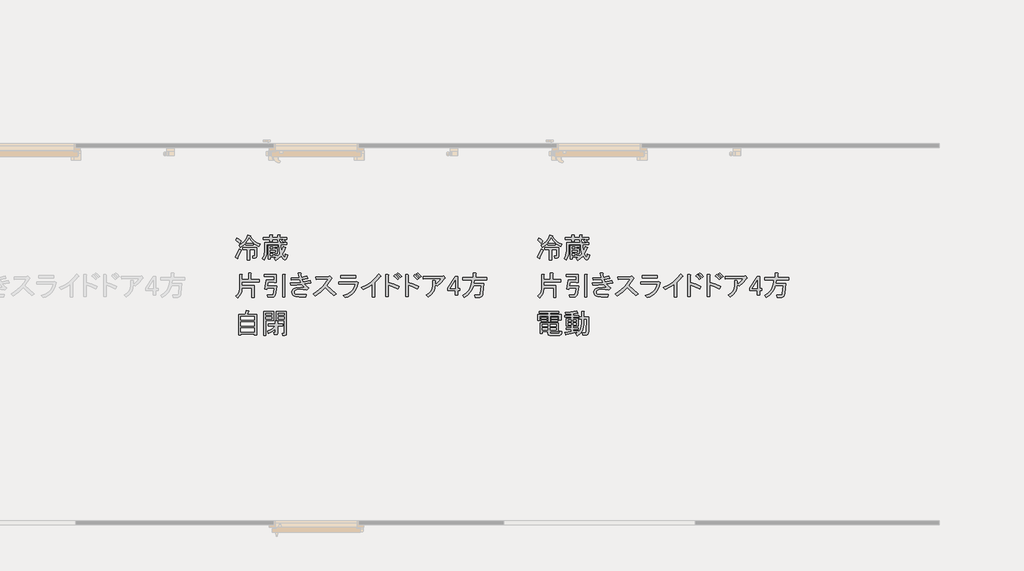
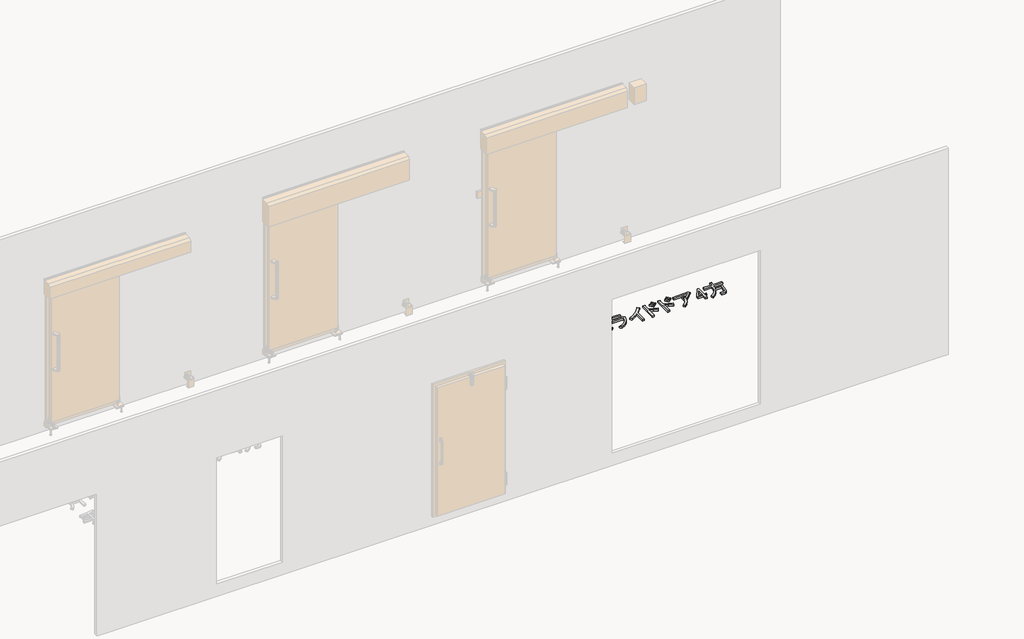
# One storey, part 82 of 117: 2 proxies.
"""IFC4 building model written with IfcOpenShell, lengths in millimetres."""

from ifc_helpers import new_model, si_unit, frame, origin, place, context, project, spatial, polyline, outline, extrude, element, save

model = new_model("IFC4")

# Units and contexts
model_context = context("Model", 3, world=origin())
ifc_project = project(units=[si_unit("LENGTHUNIT", "METRE", prefix="MILLI")], contexts=[model_context])

# Site, building, storey
site = spatial("IfcSite", under=ifc_project)
building = spatial("IfcBuilding", under=site)
storey = spatial("IfcBuildingStorey", under=building, Name="レベル 1", Elevation=500.0)

# Proxies
placement = place(None, origin())
element("IfcBuildingElementProxy", 1, Name="200㎜\u3000MS Pゴシック", ObjectType="200㎜\u3000MS Pゴシック", at=placement, inside=storey, context=model_context, shape_type="SweptSolid", body=[
    extrude(outline(polyline([(-8916.3970532, 22948.5050774), (-8882.7035553, 22967.9021871), (-8856.3378543, 22991.6097656), (-8837.2999504, 23019.6278129), (-8825.5898434, 23051.9563291), (-8794.5544679, 23043.9101206), (-8793.117645, 23040.174381), (-8798.002843, 23038.1628289), (-8779.1804624, 23010.6476696), (-8756.0476131, 22987.874026), (-8728.6042949, 22969.8418981), (-8696.850508, 22956.5512859), (-8708.3450915, 22932.4126605), (-8737.3689149, 22945.9187961), (-8766.9674674, 22965.7469527), (-8766.9674674, 22946.2061607), (-8849.7284688, 22946.2061607), (-8849.7284688, 22964.5974943), (-8874.1544588, 22942.7577856), (-8903.7530113, 22923.2169937), (-8916.3970532, 22948.5050774)]), holes=[polyline([(-8769.2663841, 22968.0458694), (-8795.4165617, 22995.3455052), (-8811.7963432, 23022.0704119), (-8825.5898434, 22993.0465885), (-8846.2800937, 22968.0458694), (-8769.2663841, 22968.0458694)])]), frame((0.0, 0.0, 500.0), z_axis=(0.0, 0.0, 1.0), x_axis=(1.0, 0.0, 0.0)), (0.0, 0.0, 1.0), 25.0),
    extrude(outline(polyline([(-8958.9270122, 22822.0646587), (-8935.9378452, 22861.7209718), (-8917.5465116, 22904.82566), (-8896.8562612, 22892.1816181), (-8914.3855011, 22848.2148362), (-8932.4894701, 22812.8689919), (-8933.0641993, 22806.5469709), (-8937.0873035, 22805.9722417), (-8958.9270122, 22822.0646587)])), frame((0.0, 0.0, 500.0), z_axis=(0.0, 0.0, 1.0), x_axis=(1.0, 0.0, 0.0)), (0.0, 0.0, 1.0), 25.0),
    extrude(outline(polyline([(-8879.6143859, 22897.9289099), (-8879.6143859, 22919.7686186), (-8730.1848002, 22919.7686186), (-8730.1848002, 22825.5130337), (-8734.2079044, 22814.3058148), (-8746.2772171, 22810.5700752), (-8771.5653009, 22810.5700752), (-8776.1631343, 22832.4097838), (-8757.7718006, 22832.4097838), (-8754.3234256, 22833.5592422), (-8753.1739672, 22837.0076172), (-8753.1739672, 22897.9289099), (-8807.1985098, 22897.9289099), (-8807.1985098, 22786.4314498), (-8830.1876768, 22786.4314498), (-8830.1876768, 22897.9289099), (-8879.6143859, 22897.9289099)])), frame((0.0, 0.0, 500.0), z_axis=(0.0, 0.0, 1.0), x_axis=(1.0, 0.0, 0.0)), (0.0, 0.0, 1.0), 25.0),
    extrude(outline(polyline([(-8941.685137, 23022.0704119), (-8920.9948866, 23009.1390055), (-8898.0057196, 22988.7361197), (-8914.0981365, 22965.7469527), (-8955.4786372, 23000.2307032), (-8941.685137, 23022.0704119)])), frame((0.0, 0.0, 500.0), z_axis=(0.0, 0.0, 1.0), x_axis=(1.0, 0.0, 0.0)), (0.0, 0.0, 1.0), 25.0),
    extrude(outline(polyline([(-8511.7877133, 22826.6624921), (-8485.3501712, 22853.1000342), (-8495.4079318, 22900.8025558), (-8500.2931298, 22954.2523692), (-8625.5840901, 22954.2523692), (-8625.5840901, 22879.5375763), (-8627.1645954, 22853.5310811), (-8631.9061111, 22829.536138), (-8639.8086373, 22807.552747), (-8650.8721739, 22787.5809081), (-8671.5624242, 22803.673325), (-8661.5046636, 22821.9209764), (-8654.3205489, 22842.1801798), (-8648.5732572, 22888.7332431), (-8648.5732572, 22976.0920778), (-8501.4425881, 22976.0920778), (-8501.4425881, 22987.5866614), (-8508.3393382, 22987.5866614), (-8508.3393382, 23005.977995), (-8568.1111725, 23005.977995), (-8568.1111725, 22984.1382863), (-8591.1003396, 22984.1382863), (-8591.1003396, 23005.977995), (-8660.0678407, 23005.977995), (-8660.0678407, 23027.8177037), (-8591.1003396, 23027.8177037), (-8591.1003396, 23053.1057874), (-8569.2606309, 23053.1057874), (-8564.3754329, 23050.8068707), (-8568.1111725, 23046.2090373), (-8568.1111725, 23027.8177037), (-8508.3393382, 23027.8177037), (-8508.3393382, 23053.1057874), (-8486.4996295, 23053.1057874), (-8481.6144316, 23050.8068707), (-8485.3501712, 23046.2090373), (-8485.3501712, 23027.8177037), (-8415.2332117, 23027.8177037), (-8415.2332117, 23005.977995), (-8452.015879, 23005.977995), (-8429.0267119, 22989.8855781), (-8442.8202122, 22976.0920778), (-8414.0837534, 22976.0920778), (-8414.0837534, 22954.2523692), (-8478.4534211, 22954.2523692), (-8469.2577543, 22877.2386596), (-8449.7169623, 22932.4126605), (-8426.7277952, 22922.0675353), (-8423.2794202, 22918.3317957), (-8429.0267119, 22916.3202435), (-8442.245483, 22882.4112222), (-8458.9126291, 22849.6516591), (-8446.8433164, 22828.099315), (-8435.9234621, 22820.9152003), (-8431.9003578, 22824.3635754), (-8429.0267119, 22834.7087005), (-8426.7277952, 22849.6516591), (-8404.8880866, 22841.6054507), (-8408.3364616, 22824.3635754), (-8417.819493, 22798.5007625), (-8424.5007197, 22792.0350592), (-8432.475087, 22789.8798248), (-8442.3891653, 22792.394265), (-8452.5906082, 22799.9375854), (-8473.8555877, 22830.1108671), (-8503.4541402, 22802.5238667), (-8530.1790469, 22784.1325331), (-8546.2714639, 22804.8227834), (-8523.2822968, 22818.6162836), (-8589.9508812, 22818.6162836), (-8589.9508812, 22801.3744083), (-8609.4916732, 22801.3744083), (-8609.4916732, 22942.7577856), (-8510.6382549, 22942.7577856), (-8510.6382549, 22924.366452), (-8543.9725471, 22924.366452), (-8543.9725471, 22908.2740351), (-8515.2360883, 22908.2740351), (-8515.2360883, 22855.3989509), (-8543.9725471, 22855.3989509), (-8543.9725471, 22837.0076172), (-8511.7877133, 22837.0076172), (-8511.7877133, 22826.6624921)]), holes=[polyline([(-8480.7523378, 22988.7361197), (-8475.8671398, 22986.1498384), (-8479.6028794, 22982.988828), (-8479.6028794, 22976.0920778), (-8446.2685872, 22976.0920778), (-8469.2577543, 22993.3339531), (-8456.6137124, 23005.977995), (-8485.3501712, 23005.977995), (-8485.3501712, 22988.7361197), (-8480.7523378, 22988.7361197)]), polyline([(-8589.9508812, 22908.2740351), (-8563.5133391, 22908.2740351), (-8563.5133391, 22924.366452), (-8589.9508812, 22924.366452), (-8589.9508812, 22908.2740351)]), polyline([(-8589.9508812, 22873.7902845), (-8534.7768803, 22873.7902845), (-8534.7768803, 22889.8827014), (-8589.9508812, 22889.8827014), (-8589.9508812, 22873.7902845)]), polyline([(-8589.9508812, 22837.0076172), (-8563.5133391, 22837.0076172), (-8563.5133391, 22855.3989509), (-8589.9508812, 22855.3989509), (-8589.9508812, 22837.0076172)])]), frame((0.0, 0.0, 500.0), z_axis=(0.0, 0.0, 1.0), x_axis=(1.0, 0.0, 0.0)), (0.0, 0.0, 1.0), 25.0),
    extrude(outline(polyline([(-8891.1089695, 22637.0133705), (-8885.0743131, 22633.5649954), (-8889.9595111, 22627.8177037), (-8889.9595111, 22579.5404529), (-8818.6930933, 22579.5404529), (-8818.6930933, 22648.507954), (-8793.4050095, 22648.507954), (-8787.3703532, 22645.059579), (-8792.2555512, 22639.3122872), (-8792.2555512, 22579.5404529), (-8707.1956331, 22579.5404529), (-8707.1956331, 22554.2523692), (-8889.9595111, 22554.2523692), (-8889.9595111, 22517.4697019), (-8760.0707173, 22517.4697019), (-8760.0707173, 22388.7303665), (-8786.5082594, 22388.7303665), (-8786.5082594, 22492.1816181), (-8889.9595111, 22492.1816181), (-8889.9595111, 22480.6870346), (-8892.6894747, 22453.7466045), (-8900.8793655, 22429.2487734), (-8914.5291834, 22407.1935412), (-8933.6389285, 22387.5809081), (-8952.0302621, 22405.9722417), (-8934.9320691, 22421.5617706), (-8922.7190741, 22439.5938985), (-8915.3912772, 22460.0686254), (-8912.9486782, 22482.9859513), (-8912.9486782, 22637.0133705), (-8891.1089695, 22637.0133705)])), frame((0.0, 0.0, 500.0), z_axis=(0.0, 0.0, 1.0), x_axis=(1.0, 0.0, 0.0)), (0.0, 0.0, 1.0), 25.0),
    extrude(outline(polyline([(-8519.8339218, 22511.7224101), (-8529.0295886, 22441.8928152), (-8535.3516095, 22419.2628539), (-8542.8230888, 22404.8227834), (-8553.4555786, 22397.0639395), (-8569.2606309, 22394.4776582), (-8615.238965, 22394.4776582), (-8618.68734, 22416.3173669), (-8576.157381, 22416.3173669), (-8565.5248912, 22418.328919), (-8558.9155057, 22424.3635754), (-8550.8692973, 22448.2148362), (-8545.1220055, 22489.8827014), (-8622.1357151, 22489.8827014), (-8624.4346318, 22478.3881179), (-8648.5732572, 22481.836493), (-8632.4808403, 22574.9426195), (-8546.2714639, 22574.9426195), (-8546.2714639, 22611.7252868), (-8652.0216322, 22611.7252868), (-8652.0216322, 22633.5649954), (-8523.2822968, 22633.5649954), (-8523.2822968, 22547.355619), (-8546.2714639, 22547.355619), (-8546.2714639, 22553.1029108), (-8610.6411316, 22553.1029108), (-8617.5378817, 22511.7224101), (-8519.8339218, 22511.7224101)])), frame((0.0, 0.0, 500.0), z_axis=(0.0, 0.0, 1.0), x_axis=(1.0, 0.0, 0.0)), (0.0, 0.0, 1.0), 25.0),
    extrude(outline(polyline([(-8433.6245454, 22396.7765749), (-8456.6137124, 22396.7765749), (-8456.6137124, 22637.0133705), (-8434.7740037, 22637.0133705), (-8429.8888057, 22634.7144538), (-8433.6245454, 22630.1166204), (-8433.6245454, 22396.7765749)])), frame((0.0, 0.0, 500.0), z_axis=(0.0, 0.0, 1.0), x_axis=(1.0, 0.0, 0.0)), (0.0, 0.0, 1.0), 25.0),
    extrude(outline(polyline([(-8253.1595841, 22582.988828), (-8239.3660839, 22554.2523692), (-8166.9502077, 22570.3447861), (-8156.6050825, 22546.2061607), (-8226.722042, 22533.5621188), (-8206.8938854, 22511.147681), (-8181.8931663, 22489.8827014), (-8201.4339582, 22470.3419095), (-8238.5039901, 22477.2386596), (-8266.9530843, 22479.5375763), (-8304.8852099, 22476.0892012), (-8317.8166164, 22471.7787324), (-8326.7249186, 22465.7440761), (-8332.759575, 22457.410503), (-8334.7711271, 22448.5022008), (-8333.0469395, 22438.1570756), (-8327.874377, 22430.1108671), (-8310.3451371, 22423.214117), (-8276.1487511, 22420.9152003), (-8206.0317916, 22420.9152003), (-8210.6296251, 22395.6271166), (-8280.7465845, 22395.6271166), (-8319.8281685, 22400.22495), (-8334.1963979, 22405.9722417), (-8345.1162522, 22414.0184502), (-8355.4613774, 22429.8235025), (-8358.9097525, 22449.6516591), (-8355.748742, 22465.7440761), (-8346.2657106, 22479.5375763), (-8333.9090333, 22488.0866728), (-8316.3797934, 22494.1931703), (-8265.803626, 22499.0783683), (-8224.4231253, 22495.6299932), (-8253.1595841, 22528.9642854), (-8309.7704079, 22523.7917228), (-8371.5537943, 22522.0675353), (-8375.0021694, 22546.2061607), (-8318.103981, 22546.7808899), (-8264.6541676, 22550.8039941), (-8277.2982095, 22579.5404529), (-8365.8065026, 22576.0920778), (-8368.1054193, 22599.0812449), (-8283.0455012, 22601.3801616), (-8292.2411681, 22648.507954), (-8266.9530843, 22648.507954), (-8260.918428, 22645.059579), (-8265.803626, 22639.3122872), (-8260.0563342, 22604.8285366), (-8199.1350415, 22616.3231202), (-8191.0888331, 22593.3339531), (-8253.1595841, 22582.988828)])), frame((0.0, 0.0, 500.0), z_axis=(0.0, 0.0, 1.0), x_axis=(1.0, 0.0, 0.0)), (0.0, 0.0, 1.0), 25.0),
    extrude(outline(polyline([(-7988.7381848, 22517.4697019), (-7939.5988402, 22476.6639304), (-7891.0342249, 22430.1108671), (-7914.0233919, 22410.5700752), (-7961.4385489, 22457.1231384), (-8007.1295184, 22495.6299932), (-8055.1194046, 22449.9390237), (-8109.4313117, 22409.4206168), (-8131.2710204, 22428.9614088), (-8075.8096549, 22468.6177219), (-8031.2681438, 22508.2740351), (-7997.646487, 22547.9303482), (-7974.9446846, 22587.5866614), (-8100.2356449, 22579.5404529), (-8103.68402, 22607.1274534), (-7970.3468511, 22612.8747451), (-7956.5533509, 22616.3231202), (-7938.1620173, 22597.9317865), (-7935.2883714, 22591.322401), (-7942.7598507, 22587.5866614), (-7988.7381848, 22517.4697019)])), frame((0.0, 0.0, 500.0), z_axis=(0.0, 0.0, 1.0), x_axis=(1.0, 0.0, 0.0)), (0.0, 0.0, 1.0), 25.0),
    extrude(outline(polyline([(-7814.7101903, 22411.7195335), (-7765.0679577, 22430.039026), (-7744.8267145, 22442.1622195), (-7727.6387201, 22456.2610446), (-7713.5039744, 22472.3355013), (-7702.4224775, 22490.3855895), (-7694.3942293, 22510.4113092), (-7689.4192299, 22532.4126605), (-7864.1368994, 22532.4126605), (-7864.1368994, 22557.7007442), (-7688.2697716, 22557.7007442), (-7677.9246464, 22561.1491193), (-7657.234396, 22548.5050774), (-7654.3607502, 22543.0451502), (-7659.5333128, 22538.1599522), (-7665.6577705, 22510.6807135), (-7674.8354771, 22485.7159149), (-7687.0664323, 22463.2655565), (-7702.3506364, 22443.3296382), (-7720.6880891, 22425.90816), (-7742.0787907, 22411.001122), (-7766.5227409, 22398.6085242), (-7794.0199399, 22388.7303665), (-7814.7101903, 22411.7195335)])), frame((0.0, 0.0, 500.0), z_axis=(0.0, 0.0, 1.0), x_axis=(1.0, 0.0, 0.0)), (0.0, 0.0, 1.0), 25.0),
    extrude(outline(polyline([(-7684.8213965, 22597.9317865), (-7843.4466491, 22597.9317865), (-7843.4466491, 22623.2198703), (-7684.8213965, 22623.2198703), (-7684.8213965, 22597.9317865)])), frame((0.0, 0.0, 500.0), z_axis=(0.0, 0.0, 1.0), x_axis=(1.0, 0.0, 0.0)), (0.0, 0.0, 1.0), 25.0),
    extrude(outline(polyline([(-7622.3368405, 22496.7794516), (-7565.6541755, 22524.6538166), (-7516.2993075, 22557.7007442), (-7474.2722365, 22595.9202344), (-7439.5729625, 22639.3122872), (-7417.7332538, 22620.9209536), (-7415.1469725, 22614.8862972), (-7425.7794623, 22610.5758284), (-7450.7801814, 22581.552005), (-7482.1029215, 22551.9534525), (-7482.1029215, 22395.6271166), (-7508.5404636, 22395.6271166), (-7508.5404636, 22530.1137438), (-7552.219881, 22500.5151912), (-7602.7960485, 22473.7902845), (-7622.3368405, 22496.7794516)])), frame((0.0, 0.0, 500.0), z_axis=(0.0, 0.0, 1.0), x_axis=(1.0, 0.0, 0.0)), (0.0, 0.0, 1.0), 25.0),
    extrude(outline(polyline([(-7239.6591659, 22581.8393696), (-7259.1999579, 22603.6790783), (-7278.7407499, 22620.9209536), (-7263.7977913, 22632.4155371), (-7244.2569993, 22615.1736618), (-7224.7162073, 22593.3339531), (-7239.6591659, 22581.8393696)])), frame((0.0, 0.0, 500.0), z_axis=(0.0, 0.0, 1.0), x_axis=(1.0, 0.0, 0.0)), (0.0, 0.0, 1.0), 25.0),
    extrude(outline(polyline([(-7212.0721655, 22603.6790783), (-7229.0266762, 22622.9325057), (-7250.0042911, 22641.6112039), (-7235.0613325, 22653.1057874), (-7215.8079051, 22636.7260059), (-7197.1292069, 22615.1736618), (-7212.0721655, 22603.6790783)])), frame((0.0, 0.0, 500.0), z_axis=(0.0, 0.0, 1.0), x_axis=(1.0, 0.0, 0.0)), (0.0, 0.0, 1.0), 25.0),
    extrude(outline(polyline([(-7237.3602492, 22480.6870346), (-7292.8216147, 22506.5498475), (-7337.3631258, 22522.0675353), (-7337.3631258, 22402.5238667), (-7363.8006679, 22402.5238667), (-7363.8006679, 22632.4155371), (-7340.8115009, 22632.4155371), (-7333.052657, 22629.5418912), (-7337.3631258, 22623.2198703), (-7337.3631258, 22550.8039941), (-7280.752302, 22531.8379313), (-7223.566749, 22507.1245767), (-7237.3602492, 22480.6870346)])), frame((0.0, 0.0, 500.0), z_axis=(0.0, 0.0, 1.0), x_axis=(1.0, 0.0, 0.0)), (0.0, 0.0, 1.0), 25.0),
    extrude(outline(polyline([(-7028.4346991, 22480.6870346), (-7083.8960646, 22506.5498475), (-7128.4375758, 22522.0675353), (-7128.4375758, 22402.5238667), (-7154.8751179, 22402.5238667), (-7154.8751179, 22632.4155371), (-7131.8859508, 22632.4155371), (-7124.127107, 22629.5418912), (-7128.4375758, 22623.2198703), (-7128.4375758, 22550.8039941), (-7071.8267519, 22531.8379313), (-7014.6411989, 22507.1245767), (-7028.4346991, 22480.6870346)])), frame((0.0, 0.0, 500.0), z_axis=(0.0, 0.0, 1.0), x_axis=(1.0, 0.0, 0.0)), (0.0, 0.0, 1.0), 25.0),
    extrude(outline(polyline([(-7030.7336159, 22581.8393696), (-7050.2744078, 22603.6790783), (-7069.8151998, 22620.9209536), (-7054.8722412, 22632.4155371), (-7035.3314493, 22615.1736618), (-7015.7906573, 22593.3339531), (-7030.7336159, 22581.8393696)])), frame((0.0, 0.0, 500.0), z_axis=(0.0, 0.0, 1.0), x_axis=(1.0, 0.0, 0.0)), (0.0, 0.0, 1.0), 25.0),
    extrude(outline(polyline([(-7003.1466154, 22603.6790783), (-7020.1011261, 22622.9325057), (-7041.078741, 22641.6112039), (-7026.1357824, 22653.1057874), (-7006.882355, 22636.7260059), (-6988.2036568, 22615.1736618), (-7003.1466154, 22603.6790783)])), frame((0.0, 0.0, 500.0), z_axis=(0.0, 0.0, 1.0), x_axis=(1.0, 0.0, 0.0)), (0.0, 0.0, 1.0), 25.0),
    extrude(outline(polyline([(-6840.1993994, 22530.1137438), (-6844.0069802, 22488.8769254), (-6857.7286393, 22452.525305), (-6881.3643766, 22421.0588826), (-6914.9141923, 22394.4776582), (-6934.4549843, 22416.3173669), (-6904.7845906, 22436.5765704), (-6883.5914522, 22460.5715135), (-6870.8755692, 22488.3021962), (-6866.6369415, 22519.7686186), (-6866.6369415, 22569.1953277), (-6842.4983161, 22569.1953277), (-6836.7510244, 22566.6090464), (-6840.1993994, 22561.1491193), (-6840.1993994, 22531.2632021), (-6803.7040967, 22562.011213), (-6776.9791901, 22592.1844948), (-6964.3409014, 22585.2877447), (-6966.6398181, 22611.7252868), (-6757.4383981, 22617.4725785), (-6749.3921896, 22619.7714952), (-6732.1503143, 22599.0812449), (-6731.8629497, 22595.9202344), (-6737.8976061, 22595.6328698), (-6775.8297317, 22552.240817), (-6820.6586074, 22511.7224101), (-6840.1993994, 22530.1137438)])), frame((0.0, 0.0, 500.0), z_axis=(0.0, 0.0, 1.0), x_axis=(1.0, 0.0, 0.0)), (0.0, 0.0, 1.0), 25.0),
    extrude(outline(polyline([(-6628.2392793, 22615.1736618), (-6601.8017372, 22615.1736618), (-6601.8017372, 22488.7332431), (-6577.6631118, 22488.7332431), (-6577.6631118, 22466.8935344), (-6601.8017372, 22466.8935344), (-6601.8017372, 22416.3173669), (-6628.2392793, 22416.3173669), (-6628.2392793, 22466.8935344), (-6705.2529889, 22466.8935344), (-6705.2529889, 22489.8827014), (-6628.2392793, 22615.1736618)]), holes=[polyline([(-6628.2392793, 22572.6437028), (-6679.9649051, 22488.7332431), (-6628.2392793, 22488.7332431), (-6628.2392793, 22572.6437028)])]), frame((0.0, 0.0, 500.0), z_axis=(0.0, 0.0, 1.0), x_axis=(1.0, 0.0, 0.0)), (0.0, 0.0, 1.0), 25.0),
    extrude(outline(polyline([(-6430.5324427, 22538.1599522), (-6323.632816, 22538.1599522), (-6335.1273995, 22434.7087005), (-6338.9349803, 22416.6047315), (-6345.7598893, 22403.673325), (-6355.6021264, 22395.9144812), (-6368.4616917, 22393.3281999), (-6414.4400258, 22393.3281999), (-6420.1873176, 22418.6162836), (-6370.7606084, 22418.6162836), (-6364.1512229, 22422.9267524), (-6360.4154833, 22435.8581589), (-6351.2198165, 22516.3202435), (-6433.9808178, 22516.3202435), (-6445.7627659, 22480.8307169), (-6466.1656517, 22447.9274716), (-6495.1894751, 22417.6105076), (-6532.8342361, 22389.8798248), (-6548.926653, 22414.0184502), (-6509.342181, 22440.2404689), (-6480.2465165, 22472.9281908), (-6461.6396594, 22512.0816159), (-6453.5216098, 22557.7007442), (-6452.3721514, 22578.3909946), (-6548.926653, 22578.3909946), (-6548.926653, 22603.6790783), (-6436.2797345, 22603.6790783), (-6436.2797345, 22649.6574124), (-6410.9916508, 22649.6574124), (-6404.9569944, 22646.2090373), (-6409.8421924, 22640.4617456), (-6409.8421924, 22603.6790783), (-6293.7468989, 22603.6790783), (-6293.7468989, 22578.3909946), (-6425.9346093, 22578.3909946), (-6430.5324427, 22538.1599522)])), frame((0.0, 0.0, 500.0), z_axis=(0.0, 0.0, 1.0), x_axis=(1.0, 0.0, 0.0)), (0.0, 0.0, 1.0), 25.0),
    extrude(outline(polyline([(-8853.1768438, 22211.7252868), (-8842.8317187, 22251.9563291), (-8815.2447182, 22246.2090373), (-8813.8078953, 22242.4732977), (-8818.6930933, 22240.4617456), (-8831.3371352, 22211.7252868), (-8733.6331752, 22211.7252868), (-8733.6331752, 21994.4776582), (-8756.6223423, 21994.4776582), (-8756.6223423, 22004.8227834), (-8901.4540946, 22004.8227834), (-8901.4540946, 21991.0292832), (-8924.4432617, 21991.0292832), (-8924.4432617, 22211.7252868), (-8853.1768438, 22211.7252868)]), holes=[polyline([(-8756.6223423, 22151.9534525), (-8756.6223423, 22189.8855781), (-8901.4540946, 22189.8855781), (-8901.4540946, 22151.9534525), (-8756.6223423, 22151.9534525)]), polyline([(-8756.6223423, 22130.1137438), (-8901.4540946, 22130.1137438), (-8901.4540946, 22091.0321598), (-8756.6223423, 22091.0321598), (-8756.6223423, 22130.1137438)]), polyline([(-8756.6223423, 22026.6624921), (-8756.6223423, 22069.1924511), (-8901.4540946, 22069.1924511), (-8901.4540946, 22026.6624921), (-8756.6223423, 22026.6624921)])]), frame((0.0, 0.0, 500.0), z_axis=(0.0, 0.0, 1.0), x_axis=(1.0, 0.0, 0.0)), (0.0, 0.0, 1.0), 25.0),
    extrude(outline(polyline([(-8524.4317552, 22241.6112039), (-8416.3826701, 22241.6112039), (-8416.3826701, 22005.9722417), (-8420.9805035, 21992.1787415), (-8434.7740037, 21987.5809081), (-8457.7631707, 21987.5809081), (-8462.3610042, 22009.4206168), (-8442.8202122, 22009.4206168), (-8439.3718371, 22012.8689919), (-8439.3718371, 22147.355619), (-8481.9017961, 22147.355619), (-8524.4317552, 22147.355619), (-8524.4317552, 22241.6112039)]), holes=[polyline([(-8501.4425881, 22223.2198703), (-8501.4425881, 22203.6790783), (-8439.3718371, 22203.6790783), (-8439.3718371, 22223.2198703), (-8501.4425881, 22223.2198703)]), polyline([(-8501.4425881, 22185.2877447), (-8501.4425881, 22165.7469527), (-8439.3718371, 22165.7469527), (-8439.3718371, 22185.2877447), (-8501.4425881, 22185.2877447)])]), frame((0.0, 0.0, 500.0), z_axis=(0.0, 0.0, 1.0), x_axis=(1.0, 0.0, 0.0)), (0.0, 0.0, 1.0), 25.0),
    extrude(outline(polyline([(-8656.6194656, 21987.5809081), (-8656.6194656, 22241.6112039), (-8548.5703806, 22241.6112039), (-8548.5703806, 22147.355619), (-8633.6302986, 22147.355619), (-8633.6302986, 21987.5809081), (-8656.6194656, 21987.5809081)]), holes=[polyline([(-8633.6302986, 22185.2877447), (-8633.6302986, 22165.7469527), (-8571.5595476, 22165.7469527), (-8571.5595476, 22185.2877447), (-8633.6302986, 22185.2877447)]), polyline([(-8633.6302986, 22223.2198703), (-8633.6302986, 22203.6790783), (-8571.5595476, 22203.6790783), (-8571.5595476, 22223.2198703), (-8633.6302986, 22223.2198703)])]), frame((0.0, 0.0, 500.0), z_axis=(0.0, 0.0, 1.0), x_axis=(1.0, 0.0, 0.0)), (0.0, 0.0, 1.0), 25.0),
    extrude(outline(polyline([(-8533.627422, 22089.8827014), (-8609.4916732, 22089.8827014), (-8609.4916732, 22111.7224101), (-8533.627422, 22111.7224101), (-8533.627422, 22141.6083273), (-8511.7877133, 22141.6083273), (-8506.9025153, 22139.3094106), (-8510.6382549, 22134.7115772), (-8510.6382549, 22111.7224101), (-8456.6137124, 22111.7224101), (-8456.6137124, 22089.8827014), (-8510.6382549, 22089.8827014), (-8510.6382549, 22015.1679086), (-8515.2360883, 22001.3744083), (-8529.0295886, 21996.7765749), (-8547.4209222, 21996.7765749), (-8553.168214, 22018.6162836), (-8537.075797, 22018.6162836), (-8533.627422, 22022.0646587), (-8533.627422, 22056.5484092), (-8564.9501621, 22032.1224193), (-8608.3422149, 22011.7195335), (-8616.3884233, 22034.7087005), (-8568.1111725, 22057.410503), (-8549.1451097, 22071.1321621), (-8533.627422, 22086.4343264), (-8533.627422, 22089.8827014)])), frame((0.0, 0.0, 500.0), z_axis=(0.0, 0.0, 1.0), x_axis=(1.0, 0.0, 0.0)), (0.0, 0.0, 1.0), 25.0),
])
element("IfcBuildingElementProxy", 2, Name="200㎜\u3000MS Pゴシック", ObjectType="200㎜\u3000MS Pゴシック", at=placement, inside=storey, context=model_context, shape_type="SweptSolid", body=[
    extrude(outline(polyline([(-5716.3970532, 22948.5050774), (-5682.7035553, 22967.9021871), (-5656.3378543, 22991.6097656), (-5637.2999504, 23019.6278129), (-5625.5898434, 23051.9563291), (-5594.5544679, 23043.9101206), (-5593.117645, 23040.174381), (-5598.002843, 23038.1628289), (-5579.1804624, 23010.6476696), (-5556.0476131, 22987.874026), (-5528.6042949, 22969.8418981), (-5496.850508, 22956.5512859), (-5508.3450915, 22932.4126605), (-5537.3689149, 22945.9187961), (-5566.9674674, 22965.7469527), (-5566.9674674, 22946.2061607), (-5649.7284688, 22946.2061607), (-5649.7284688, 22964.5974943), (-5674.1544588, 22942.7577856), (-5703.7530113, 22923.2169937), (-5716.3970532, 22948.5050774)]), holes=[polyline([(-5569.2663841, 22968.0458694), (-5595.4165617, 22995.3455052), (-5611.7963432, 23022.0704119), (-5625.5898434, 22993.0465885), (-5646.2800937, 22968.0458694), (-5569.2663841, 22968.0458694)])]), frame((0.0, 0.0, 500.0), z_axis=(0.0, 0.0, 1.0), x_axis=(1.0, 0.0, 0.0)), (0.0, 0.0, 1.0), 25.0),
    extrude(outline(polyline([(-5758.9270122, 22822.0646587), (-5735.9378452, 22861.7209718), (-5717.5465116, 22904.82566), (-5696.8562612, 22892.1816181), (-5714.3855011, 22848.2148362), (-5732.4894701, 22812.8689919), (-5733.0641993, 22806.5469709), (-5737.0873035, 22805.9722417), (-5758.9270122, 22822.0646587)])), frame((0.0, 0.0, 500.0), z_axis=(0.0, 0.0, 1.0), x_axis=(1.0, 0.0, 0.0)), (0.0, 0.0, 1.0), 25.0),
    extrude(outline(polyline([(-5679.6143859, 22897.9289099), (-5679.6143859, 22919.7686186), (-5530.1848002, 22919.7686186), (-5530.1848002, 22825.5130337), (-5534.2079044, 22814.3058148), (-5546.2772171, 22810.5700752), (-5571.5653009, 22810.5700752), (-5576.1631343, 22832.4097838), (-5557.7718006, 22832.4097838), (-5554.3234256, 22833.5592422), (-5553.1739672, 22837.0076172), (-5553.1739672, 22897.9289099), (-5607.1985098, 22897.9289099), (-5607.1985098, 22786.4314498), (-5630.1876768, 22786.4314498), (-5630.1876768, 22897.9289099), (-5679.6143859, 22897.9289099)])), frame((0.0, 0.0, 500.0), z_axis=(0.0, 0.0, 1.0), x_axis=(1.0, 0.0, 0.0)), (0.0, 0.0, 1.0), 25.0),
    extrude(outline(polyline([(-5741.685137, 23022.0704119), (-5720.9948866, 23009.1390055), (-5698.0057196, 22988.7361197), (-5714.0981365, 22965.7469527), (-5755.4786372, 23000.2307032), (-5741.685137, 23022.0704119)])), frame((0.0, 0.0, 500.0), z_axis=(0.0, 0.0, 1.0), x_axis=(1.0, 0.0, 0.0)), (0.0, 0.0, 1.0), 25.0),
    extrude(outline(polyline([(-5311.7877133, 22826.6624921), (-5285.3501712, 22853.1000342), (-5295.4079318, 22900.8025558), (-5300.2931298, 22954.2523692), (-5425.5840901, 22954.2523692), (-5425.5840901, 22879.5375763), (-5427.1645954, 22853.5310811), (-5431.9061111, 22829.536138), (-5439.8086373, 22807.552747), (-5450.8721739, 22787.5809081), (-5471.5624242, 22803.673325), (-5461.5046636, 22821.9209764), (-5454.3205489, 22842.1801798), (-5448.5732572, 22888.7332431), (-5448.5732572, 22976.0920778), (-5301.4425881, 22976.0920778), (-5301.4425881, 22987.5866614), (-5308.3393382, 22987.5866614), (-5308.3393382, 23005.977995), (-5368.1111725, 23005.977995), (-5368.1111725, 22984.1382863), (-5391.1003396, 22984.1382863), (-5391.1003396, 23005.977995), (-5460.0678407, 23005.977995), (-5460.0678407, 23027.8177037), (-5391.1003396, 23027.8177037), (-5391.1003396, 23053.1057874), (-5369.2606309, 23053.1057874), (-5364.3754329, 23050.8068707), (-5368.1111725, 23046.2090373), (-5368.1111725, 23027.8177037), (-5308.3393382, 23027.8177037), (-5308.3393382, 23053.1057874), (-5286.4996295, 23053.1057874), (-5281.6144316, 23050.8068707), (-5285.3501712, 23046.2090373), (-5285.3501712, 23027.8177037), (-5215.2332117, 23027.8177037), (-5215.2332117, 23005.977995), (-5252.015879, 23005.977995), (-5229.0267119, 22989.8855781), (-5242.8202122, 22976.0920778), (-5214.0837534, 22976.0920778), (-5214.0837534, 22954.2523692), (-5278.4534211, 22954.2523692), (-5269.2577543, 22877.2386596), (-5249.7169623, 22932.4126605), (-5226.7277952, 22922.0675353), (-5223.2794202, 22918.3317957), (-5229.0267119, 22916.3202435), (-5242.245483, 22882.4112222), (-5258.9126291, 22849.6516591), (-5246.8433164, 22828.099315), (-5235.9234621, 22820.9152003), (-5231.9003578, 22824.3635754), (-5229.0267119, 22834.7087005), (-5226.7277952, 22849.6516591), (-5204.8880866, 22841.6054507), (-5208.3364616, 22824.3635754), (-5217.819493, 22798.5007625), (-5224.5007197, 22792.0350592), (-5232.475087, 22789.8798248), (-5242.3891653, 22792.394265), (-5252.5906082, 22799.9375854), (-5273.8555877, 22830.1108671), (-5303.4541402, 22802.5238667), (-5330.1790469, 22784.1325331), (-5346.2714639, 22804.8227834), (-5323.2822968, 22818.6162836), (-5389.9508812, 22818.6162836), (-5389.9508812, 22801.3744083), (-5409.4916732, 22801.3744083), (-5409.4916732, 22942.7577856), (-5310.6382549, 22942.7577856), (-5310.6382549, 22924.366452), (-5343.9725471, 22924.366452), (-5343.9725471, 22908.2740351), (-5315.2360883, 22908.2740351), (-5315.2360883, 22855.3989509), (-5343.9725471, 22855.3989509), (-5343.9725471, 22837.0076172), (-5311.7877133, 22837.0076172), (-5311.7877133, 22826.6624921)]), holes=[polyline([(-5280.7523378, 22988.7361197), (-5275.8671398, 22986.1498384), (-5279.6028794, 22982.988828), (-5279.6028794, 22976.0920778), (-5246.2685872, 22976.0920778), (-5269.2577543, 22993.3339531), (-5256.6137124, 23005.977995), (-5285.3501712, 23005.977995), (-5285.3501712, 22988.7361197), (-5280.7523378, 22988.7361197)]), polyline([(-5389.9508812, 22908.2740351), (-5363.5133391, 22908.2740351), (-5363.5133391, 22924.366452), (-5389.9508812, 22924.366452), (-5389.9508812, 22908.2740351)]), polyline([(-5389.9508812, 22873.7902845), (-5334.7768803, 22873.7902845), (-5334.7768803, 22889.8827014), (-5389.9508812, 22889.8827014), (-5389.9508812, 22873.7902845)]), polyline([(-5389.9508812, 22837.0076172), (-5363.5133391, 22837.0076172), (-5363.5133391, 22855.3989509), (-5389.9508812, 22855.3989509), (-5389.9508812, 22837.0076172)])]), frame((0.0, 0.0, 500.0), z_axis=(0.0, 0.0, 1.0), x_axis=(1.0, 0.0, 0.0)), (0.0, 0.0, 1.0), 25.0),
    extrude(outline(polyline([(-5691.1089695, 22637.0133705), (-5685.0743131, 22633.5649954), (-5689.9595111, 22627.8177037), (-5689.9595111, 22579.5404529), (-5618.6930933, 22579.5404529), (-5618.6930933, 22648.507954), (-5593.4050095, 22648.507954), (-5587.3703532, 22645.059579), (-5592.2555512, 22639.3122872), (-5592.2555512, 22579.5404529), (-5507.1956331, 22579.5404529), (-5507.1956331, 22554.2523692), (-5689.9595111, 22554.2523692), (-5689.9595111, 22517.4697019), (-5560.0707173, 22517.4697019), (-5560.0707173, 22388.7303665), (-5586.5082594, 22388.7303665), (-5586.5082594, 22492.1816181), (-5689.9595111, 22492.1816181), (-5689.9595111, 22480.6870346), (-5692.6894747, 22453.7466045), (-5700.8793655, 22429.2487734), (-5714.5291834, 22407.1935412), (-5733.6389285, 22387.5809081), (-5752.0302621, 22405.9722417), (-5734.9320691, 22421.5617706), (-5722.7190741, 22439.5938985), (-5715.3912772, 22460.0686254), (-5712.9486782, 22482.9859513), (-5712.9486782, 22637.0133705), (-5691.1089695, 22637.0133705)])), frame((0.0, 0.0, 500.0), z_axis=(0.0, 0.0, 1.0), x_axis=(1.0, 0.0, 0.0)), (0.0, 0.0, 1.0), 25.0),
    extrude(outline(polyline([(-5319.8339218, 22511.7224101), (-5329.0295886, 22441.8928152), (-5335.3516095, 22419.2628539), (-5342.8230888, 22404.8227834), (-5353.4555786, 22397.0639395), (-5369.2606309, 22394.4776582), (-5415.238965, 22394.4776582), (-5418.68734, 22416.3173669), (-5376.157381, 22416.3173669), (-5365.5248912, 22418.328919), (-5358.9155057, 22424.3635754), (-5350.8692973, 22448.2148362), (-5345.1220055, 22489.8827014), (-5422.1357151, 22489.8827014), (-5424.4346318, 22478.3881179), (-5448.5732572, 22481.836493), (-5432.4808403, 22574.9426195), (-5346.2714639, 22574.9426195), (-5346.2714639, 22611.7252868), (-5452.0216322, 22611.7252868), (-5452.0216322, 22633.5649954), (-5323.2822968, 22633.5649954), (-5323.2822968, 22547.355619), (-5346.2714639, 22547.355619), (-5346.2714639, 22553.1029108), (-5410.6411316, 22553.1029108), (-5417.5378817, 22511.7224101), (-5319.8339218, 22511.7224101)])), frame((0.0, 0.0, 500.0), z_axis=(0.0, 0.0, 1.0), x_axis=(1.0, 0.0, 0.0)), (0.0, 0.0, 1.0), 25.0),
    extrude(outline(polyline([(-5233.6245454, 22396.7765749), (-5256.6137124, 22396.7765749), (-5256.6137124, 22637.0133705), (-5234.7740037, 22637.0133705), (-5229.8888057, 22634.7144538), (-5233.6245454, 22630.1166204), (-5233.6245454, 22396.7765749)])), frame((0.0, 0.0, 500.0), z_axis=(0.0, 0.0, 1.0), x_axis=(1.0, 0.0, 0.0)), (0.0, 0.0, 1.0), 25.0),
    extrude(outline(polyline([(-5053.1595841, 22582.988828), (-5039.3660839, 22554.2523692), (-4966.9502077, 22570.3447861), (-4956.6050825, 22546.2061607), (-5026.722042, 22533.5621188), (-5006.8938854, 22511.147681), (-4981.8931663, 22489.8827014), (-5001.4339582, 22470.3419095), (-5038.5039901, 22477.2386596), (-5066.9530843, 22479.5375763), (-5104.8852099, 22476.0892012), (-5117.8166164, 22471.7787324), (-5126.7249186, 22465.7440761), (-5132.759575, 22457.410503), (-5134.7711271, 22448.5022008), (-5133.0469395, 22438.1570756), (-5127.874377, 22430.1108671), (-5110.3451371, 22423.214117), (-5076.1487511, 22420.9152003), (-5006.0317916, 22420.9152003), (-5010.6296251, 22395.6271166), (-5080.7465845, 22395.6271166), (-5119.8281685, 22400.22495), (-5134.1963979, 22405.9722417), (-5145.1162522, 22414.0184502), (-5155.4613774, 22429.8235025), (-5158.9097525, 22449.6516591), (-5155.748742, 22465.7440761), (-5146.2657106, 22479.5375763), (-5133.9090333, 22488.0866728), (-5116.3797934, 22494.1931703), (-5065.803626, 22499.0783683), (-5024.4231253, 22495.6299932), (-5053.1595841, 22528.9642854), (-5109.7704079, 22523.7917228), (-5171.5537943, 22522.0675353), (-5175.0021694, 22546.2061607), (-5118.103981, 22546.7808899), (-5064.6541676, 22550.8039941), (-5077.2982095, 22579.5404529), (-5165.8065026, 22576.0920778), (-5168.1054193, 22599.0812449), (-5083.0455012, 22601.3801616), (-5092.2411681, 22648.507954), (-5066.9530843, 22648.507954), (-5060.918428, 22645.059579), (-5065.803626, 22639.3122872), (-5060.0563342, 22604.8285366), (-4999.1350415, 22616.3231202), (-4991.0888331, 22593.3339531), (-5053.1595841, 22582.988828)])), frame((0.0, 0.0, 500.0), z_axis=(0.0, 0.0, 1.0), x_axis=(1.0, 0.0, 0.0)), (0.0, 0.0, 1.0), 25.0),
    extrude(outline(polyline([(-4788.7381848, 22517.4697019), (-4739.5988402, 22476.6639304), (-4691.0342249, 22430.1108671), (-4714.0233919, 22410.5700752), (-4761.4385489, 22457.1231384), (-4807.1295184, 22495.6299932), (-4855.1194046, 22449.9390237), (-4909.4313117, 22409.4206168), (-4931.2710204, 22428.9614088), (-4875.8096549, 22468.6177219), (-4831.2681438, 22508.2740351), (-4797.646487, 22547.9303482), (-4774.9446846, 22587.5866614), (-4900.2356449, 22579.5404529), (-4903.68402, 22607.1274534), (-4770.3468511, 22612.8747451), (-4756.5533509, 22616.3231202), (-4738.1620173, 22597.9317865), (-4735.2883714, 22591.322401), (-4742.7598507, 22587.5866614), (-4788.7381848, 22517.4697019)])), frame((0.0, 0.0, 500.0), z_axis=(0.0, 0.0, 1.0), x_axis=(1.0, 0.0, 0.0)), (0.0, 0.0, 1.0), 25.0),
    extrude(outline(polyline([(-4614.7101903, 22411.7195335), (-4565.0679577, 22430.039026), (-4544.8267145, 22442.1622195), (-4527.6387201, 22456.2610446), (-4513.5039744, 22472.3355013), (-4502.4224775, 22490.3855895), (-4494.3942293, 22510.4113092), (-4489.4192299, 22532.4126605), (-4664.1368994, 22532.4126605), (-4664.1368994, 22557.7007442), (-4488.2697716, 22557.7007442), (-4477.9246464, 22561.1491193), (-4457.234396, 22548.5050774), (-4454.3607502, 22543.0451502), (-4459.5333128, 22538.1599522), (-4465.6577705, 22510.6807135), (-4474.8354771, 22485.7159149), (-4487.0664323, 22463.2655565), (-4502.3506364, 22443.3296382), (-4520.6880891, 22425.90816), (-4542.0787907, 22411.001122), (-4566.5227409, 22398.6085242), (-4594.0199399, 22388.7303665), (-4614.7101903, 22411.7195335)])), frame((0.0, 0.0, 500.0), z_axis=(0.0, 0.0, 1.0), x_axis=(1.0, 0.0, 0.0)), (0.0, 0.0, 1.0), 25.0),
    extrude(outline(polyline([(-4484.8213965, 22597.9317865), (-4643.4466491, 22597.9317865), (-4643.4466491, 22623.2198703), (-4484.8213965, 22623.2198703), (-4484.8213965, 22597.9317865)])), frame((0.0, 0.0, 500.0), z_axis=(0.0, 0.0, 1.0), x_axis=(1.0, 0.0, 0.0)), (0.0, 0.0, 1.0), 25.0),
    extrude(outline(polyline([(-4422.3368405, 22496.7794516), (-4365.6541755, 22524.6538166), (-4316.2993075, 22557.7007442), (-4274.2722365, 22595.9202344), (-4239.5729625, 22639.3122872), (-4217.7332538, 22620.9209536), (-4215.1469725, 22614.8862972), (-4225.7794623, 22610.5758284), (-4250.7801814, 22581.552005), (-4282.1029215, 22551.9534525), (-4282.1029215, 22395.6271166), (-4308.5404636, 22395.6271166), (-4308.5404636, 22530.1137438), (-4352.219881, 22500.5151912), (-4402.7960485, 22473.7902845), (-4422.3368405, 22496.7794516)])), frame((0.0, 0.0, 500.0), z_axis=(0.0, 0.0, 1.0), x_axis=(1.0, 0.0, 0.0)), (0.0, 0.0, 1.0), 25.0),
    extrude(outline(polyline([(-4039.6591659, 22581.8393696), (-4059.1999579, 22603.6790783), (-4078.7407499, 22620.9209536), (-4063.7977913, 22632.4155371), (-4044.2569993, 22615.1736618), (-4024.7162073, 22593.3339531), (-4039.6591659, 22581.8393696)])), frame((0.0, 0.0, 500.0), z_axis=(0.0, 0.0, 1.0), x_axis=(1.0, 0.0, 0.0)), (0.0, 0.0, 1.0), 25.0),
    extrude(outline(polyline([(-4012.0721655, 22603.6790783), (-4029.0266762, 22622.9325057), (-4050.0042911, 22641.6112039), (-4035.0613325, 22653.1057874), (-4015.8079051, 22636.7260059), (-3997.1292069, 22615.1736618), (-4012.0721655, 22603.6790783)])), frame((0.0, 0.0, 500.0), z_axis=(0.0, 0.0, 1.0), x_axis=(1.0, 0.0, 0.0)), (0.0, 0.0, 1.0), 25.0),
    extrude(outline(polyline([(-4037.3602492, 22480.6870346), (-4092.8216147, 22506.5498475), (-4137.3631258, 22522.0675353), (-4137.3631258, 22402.5238667), (-4163.8006679, 22402.5238667), (-4163.8006679, 22632.4155371), (-4140.8115009, 22632.4155371), (-4133.052657, 22629.5418912), (-4137.3631258, 22623.2198703), (-4137.3631258, 22550.8039941), (-4080.752302, 22531.8379313), (-4023.566749, 22507.1245767), (-4037.3602492, 22480.6870346)])), frame((0.0, 0.0, 500.0), z_axis=(0.0, 0.0, 1.0), x_axis=(1.0, 0.0, 0.0)), (0.0, 0.0, 1.0), 25.0),
    extrude(outline(polyline([(-3828.4346991, 22480.6870346), (-3883.8960646, 22506.5498475), (-3928.4375758, 22522.0675353), (-3928.4375758, 22402.5238667), (-3954.8751179, 22402.5238667), (-3954.8751179, 22632.4155371), (-3931.8859508, 22632.4155371), (-3924.127107, 22629.5418912), (-3928.4375758, 22623.2198703), (-3928.4375758, 22550.8039941), (-3871.8267519, 22531.8379313), (-3814.6411989, 22507.1245767), (-3828.4346991, 22480.6870346)])), frame((0.0, 0.0, 500.0), z_axis=(0.0, 0.0, 1.0), x_axis=(1.0, 0.0, 0.0)), (0.0, 0.0, 1.0), 25.0),
    extrude(outline(polyline([(-3830.7336159, 22581.8393696), (-3850.2744078, 22603.6790783), (-3869.8151998, 22620.9209536), (-3854.8722412, 22632.4155371), (-3835.3314493, 22615.1736618), (-3815.7906573, 22593.3339531), (-3830.7336159, 22581.8393696)])), frame((0.0, 0.0, 500.0), z_axis=(0.0, 0.0, 1.0), x_axis=(1.0, 0.0, 0.0)), (0.0, 0.0, 1.0), 25.0),
    extrude(outline(polyline([(-3803.1466154, 22603.6790783), (-3820.1011261, 22622.9325057), (-3841.078741, 22641.6112039), (-3826.1357824, 22653.1057874), (-3806.882355, 22636.7260059), (-3788.2036568, 22615.1736618), (-3803.1466154, 22603.6790783)])), frame((0.0, 0.0, 500.0), z_axis=(0.0, 0.0, 1.0), x_axis=(1.0, 0.0, 0.0)), (0.0, 0.0, 1.0), 25.0),
    extrude(outline(polyline([(-3640.1993994, 22530.1137438), (-3644.0069802, 22488.8769254), (-3657.7286393, 22452.525305), (-3681.3643766, 22421.0588826), (-3714.9141923, 22394.4776582), (-3734.4549843, 22416.3173669), (-3704.7845906, 22436.5765704), (-3683.5914522, 22460.5715135), (-3670.8755692, 22488.3021962), (-3666.6369415, 22519.7686186), (-3666.6369415, 22569.1953277), (-3642.4983161, 22569.1953277), (-3636.7510244, 22566.6090464), (-3640.1993994, 22561.1491193), (-3640.1993994, 22531.2632021), (-3603.7040967, 22562.011213), (-3576.9791901, 22592.1844948), (-3764.3409014, 22585.2877447), (-3766.6398181, 22611.7252868), (-3557.4383981, 22617.4725785), (-3549.3921896, 22619.7714952), (-3532.1503143, 22599.0812449), (-3531.8629497, 22595.9202344), (-3537.8976061, 22595.6328698), (-3575.8297317, 22552.240817), (-3620.6586074, 22511.7224101), (-3640.1993994, 22530.1137438)])), frame((0.0, 0.0, 500.0), z_axis=(0.0, 0.0, 1.0), x_axis=(1.0, 0.0, 0.0)), (0.0, 0.0, 1.0), 25.0),
    extrude(outline(polyline([(-3428.2392793, 22615.1736618), (-3401.8017372, 22615.1736618), (-3401.8017372, 22488.7332431), (-3377.6631118, 22488.7332431), (-3377.6631118, 22466.8935344), (-3401.8017372, 22466.8935344), (-3401.8017372, 22416.3173669), (-3428.2392793, 22416.3173669), (-3428.2392793, 22466.8935344), (-3505.2529889, 22466.8935344), (-3505.2529889, 22489.8827014), (-3428.2392793, 22615.1736618)]), holes=[polyline([(-3428.2392793, 22572.6437028), (-3479.9649051, 22488.7332431), (-3428.2392793, 22488.7332431), (-3428.2392793, 22572.6437028)])]), frame((0.0, 0.0, 500.0), z_axis=(0.0, 0.0, 1.0), x_axis=(1.0, 0.0, 0.0)), (0.0, 0.0, 1.0), 25.0),
    extrude(outline(polyline([(-3230.5324427, 22538.1599522), (-3123.632816, 22538.1599522), (-3135.1273995, 22434.7087005), (-3138.9349803, 22416.6047315), (-3145.7598893, 22403.673325), (-3155.6021264, 22395.9144812), (-3168.4616917, 22393.3281999), (-3214.4400258, 22393.3281999), (-3220.1873176, 22418.6162836), (-3170.7606084, 22418.6162836), (-3164.1512229, 22422.9267524), (-3160.4154833, 22435.8581589), (-3151.2198165, 22516.3202435), (-3233.9808178, 22516.3202435), (-3245.7627659, 22480.8307169), (-3266.1656517, 22447.9274716), (-3295.1894751, 22417.6105076), (-3332.8342361, 22389.8798248), (-3348.926653, 22414.0184502), (-3309.342181, 22440.2404689), (-3280.2465165, 22472.9281908), (-3261.6396594, 22512.0816159), (-3253.5216098, 22557.7007442), (-3252.3721514, 22578.3909946), (-3348.926653, 22578.3909946), (-3348.926653, 22603.6790783), (-3236.2797345, 22603.6790783), (-3236.2797345, 22649.6574124), (-3210.9916508, 22649.6574124), (-3204.9569944, 22646.2090373), (-3209.8421924, 22640.4617456), (-3209.8421924, 22603.6790783), (-3093.7468989, 22603.6790783), (-3093.7468989, 22578.3909946), (-3225.9346093, 22578.3909946), (-3230.5324427, 22538.1599522)])), frame((0.0, 0.0, 500.0), z_axis=(0.0, 0.0, 1.0), x_axis=(1.0, 0.0, 0.0)), (0.0, 0.0, 1.0), 25.0),
    extrude(outline(polyline([(-5718.6959699, 22165.7469527), (-5718.6959699, 22179.5404529), (-5655.4757606, 22179.5404529), (-5655.4757606, 22165.7469527), (-5718.6959699, 22165.7469527)])), frame((0.0, 0.0, 500.0), z_axis=(0.0, 0.0, 1.0), x_axis=(1.0, 0.0, 0.0)), (0.0, 0.0, 1.0), 25.0),
    extrude(outline(polyline([(-5655.4757606, 22138.1599522), (-5718.6959699, 22138.1599522), (-5718.6959699, 22151.9534525), (-5655.4757606, 22151.9534525), (-5655.4757606, 22138.1599522)])), frame((0.0, 0.0, 500.0), z_axis=(0.0, 0.0, 1.0), x_axis=(1.0, 0.0, 0.0)), (0.0, 0.0, 1.0), 25.0),
    extrude(outline(polyline([(-5608.3479681, 22138.1599522), (-5608.3479681, 22151.9534525), (-5541.6793837, 22151.9534525), (-5541.6793837, 22138.1599522), (-5608.3479681, 22138.1599522)])), frame((0.0, 0.0, 500.0), z_axis=(0.0, 0.0, 1.0), x_axis=(1.0, 0.0, 0.0)), (0.0, 0.0, 1.0), 25.0),
    extrude(outline(polyline([(-5608.3479681, 22165.7469527), (-5608.3479681, 22179.5404529), (-5541.6793837, 22179.5404529), (-5541.6793837, 22165.7469527), (-5608.3479681, 22165.7469527)])), frame((0.0, 0.0, 500.0), z_axis=(0.0, 0.0, 1.0), x_axis=(1.0, 0.0, 0.0)), (0.0, 0.0, 1.0), 25.0),
    extrude(outline(polyline([(-5529.0353418, 22226.6682453), (-5620.99201, 22226.6682453), (-5620.99201, 22208.2769117), (-5506.0461748, 22208.2769117), (-5506.0461748, 22153.1029108), (-5529.0353418, 22153.1029108), (-5529.0353418, 22194.4834115), (-5620.99201, 22194.4834115), (-5620.99201, 22128.9642854), (-5643.981177, 22128.9642854), (-5643.981177, 22194.4834115), (-5732.4894701, 22194.4834115), (-5732.4894701, 22148.5050774), (-5755.4786372, 22148.5050774), (-5755.4786372, 22208.2769117), (-5643.981177, 22208.2769117), (-5643.981177, 22226.6682453), (-5735.9378452, 22226.6682453), (-5735.9378452, 22245.059579), (-5529.0353418, 22245.059579), (-5529.0353418, 22226.6682453)])), frame((0.0, 0.0, 500.0), z_axis=(0.0, 0.0, 1.0), x_axis=(1.0, 0.0, 0.0)), (0.0, 0.0, 1.0), 25.0),
    extrude(outline(polyline([(-5496.850508, 22030.1108671), (-5499.6523127, 22011.5040101), (-5506.9082686, 21998.2133979), (-5518.6183755, 21990.2390306), (-5534.7826336, 21987.5809081), (-5624.440385, 21987.5809081), (-5639.9580728, 21992.4661061), (-5643.8374947, 21998.5726036), (-5645.1306354, 22007.1217001), (-5645.1306354, 22028.9614088), (-5704.9024697, 22028.9614088), (-5704.9024697, 22009.4206168), (-5724.4432617, 22009.4206168), (-5724.4432617, 22122.0675353), (-5537.0815503, 22122.0675353), (-5537.0815503, 22028.9614088), (-5622.1414683, 22028.9614088), (-5622.1414683, 22018.6162836), (-5620.1299162, 22011.7195335), (-5614.0952599, 22009.4206168), (-5538.2310086, 22009.4206168), (-5531.6216231, 22011.001122), (-5526.7364251, 22015.7426377), (-5522.1385917, 22034.7087005), (-5496.850508, 22030.1108671)]), holes=[polyline([(-5704.9024697, 22047.3527424), (-5645.1306354, 22047.3527424), (-5645.1306354, 22066.8935344), (-5704.9024697, 22066.8935344), (-5704.9024697, 22047.3527424)]), polyline([(-5704.9024697, 22085.284868), (-5645.1306354, 22085.284868), (-5645.1306354, 22103.6762017), (-5704.9024697, 22103.6762017), (-5704.9024697, 22085.284868)]), polyline([(-5622.1414683, 22047.3527424), (-5556.6223423, 22047.3527424), (-5556.6223423, 22066.8935344), (-5622.1414683, 22066.8935344), (-5622.1414683, 22047.3527424)]), polyline([(-5622.1414683, 22085.284868), (-5556.6223423, 22085.284868), (-5556.6223423, 22103.6762017), (-5622.1414683, 22103.6762017), (-5622.1414683, 22085.284868)])]), frame((0.0, 0.0, 500.0), z_axis=(0.0, 0.0, 1.0), x_axis=(1.0, 0.0, 0.0)), (0.0, 0.0, 1.0), 25.0),
    extrude(outline(polyline([(-5348.5703806, 22007.1217001), (-5324.4317552, 22024.3635754), (-5453.1710906, 22000.22495), (-5455.1826427, 21995.339752), (-5458.9183824, 21996.7765749), (-5465.8151325, 22022.0646587), (-5399.146548, 22030.1108671), (-5399.146548, 22050.8011175), (-5453.1710906, 22050.8011175), (-5453.1710906, 22069.1924511), (-5399.146548, 22069.1924511), (-5399.146548, 22086.4343264), (-5425.5840901, 22086.4343264), (-5450.8721739, 22086.4343264), (-5450.8721739, 22168.0458694), (-5399.146548, 22168.0458694), (-5399.146548, 22184.1382863), (-5465.8151325, 22184.1382863), (-5465.8151325, 22202.5296199), (-5399.146548, 22202.5296199), (-5399.146548, 22216.3231202), (-5456.6194656, 22214.0242035), (-5460.0678407, 22233.5649954), (-5401.7328293, 22236.7260059), (-5339.3747137, 22246.2090373), (-5329.0295886, 22226.6682453), (-5329.0295886, 22222.6451411), (-5335.9263387, 22224.3693286), (-5379.6057561, 22218.6220369), (-5379.6057561, 22202.5296199), (-5316.3855467, 22202.5296199), (-5316.3855467, 22184.1382863), (-5379.6057561, 22184.1382863), (-5379.6057561, 22168.0458694), (-5326.7306719, 22168.0458694), (-5326.7306719, 22086.4343264), (-5379.6057561, 22086.4343264), (-5379.6057561, 22069.1924511), (-5322.1328385, 22069.1924511), (-5322.1328385, 22050.8011175), (-5379.6057561, 22050.8011175), (-5379.6057561, 22033.5592422), (-5322.1328385, 22042.754909), (-5322.1328385, 22026.6624921), (-5307.4772445, 22043.5451616), (-5296.8447547, 22064.3072531), (-5290.2353692, 22088.9487665), (-5287.6490879, 22117.4697019), (-5286.4996295, 22162.2985776), (-5314.08663, 22162.2985776), (-5314.08663, 22184.1382863), (-5286.4996295, 22184.1382863), (-5286.4996295, 22242.7606623), (-5264.6599209, 22242.7606623), (-5259.7747229, 22240.4617456), (-5263.5104625, 22235.8639122), (-5263.5104625, 22184.1382863), (-5212.934295, 22184.1382863), (-5215.2332117, 22032.4097838), (-5217.5321284, 22014.3058148), (-5223.2794202, 22001.3744083), (-5232.475087, 21993.6155645), (-5245.1191289, 21991.0292832), (-5276.1545044, 21991.0292832), (-5279.6028794, 22012.8689919), (-5253.1653373, 22012.8689919), (-5247.0588398, 22014.3776559), (-5242.5328476, 22018.9036482), (-5238.2223788, 22037.0076172), (-5234.7740037, 22162.2985776), (-5263.5104625, 22162.2985776), (-5264.6599209, 22108.2740351), (-5269.4732777, 22070.8447975), (-5282.7638899, 22037.869711), (-5304.5317574, 22009.3487757), (-5334.7768803, 21985.2819914), (-5348.5703806, 22007.1217001)]), holes=[polyline([(-5379.6057561, 22120.9180769), (-5379.6057561, 22100.2278266), (-5346.2714639, 22100.2278266), (-5346.2714639, 22120.9180769), (-5379.6057561, 22120.9180769)]), polyline([(-5379.6057561, 22154.2523692), (-5379.6057561, 22134.7115772), (-5346.2714639, 22134.7115772), (-5346.2714639, 22154.2523692), (-5379.6057561, 22154.2523692)]), polyline([(-5431.3313819, 22120.9180769), (-5431.3313819, 22100.2278266), (-5399.146548, 22100.2278266), (-5399.146548, 22120.9180769), (-5431.3313819, 22120.9180769)]), polyline([(-5431.3313819, 22154.2523692), (-5431.3313819, 22134.7115772), (-5399.146548, 22134.7115772), (-5399.146548, 22154.2523692), (-5431.3313819, 22154.2523692)])]), frame((0.0, 0.0, 500.0), z_axis=(0.0, 0.0, 1.0), x_axis=(1.0, 0.0, 0.0)), (0.0, 0.0, 1.0), 25.0),
])

save(model, "model.ifc")
